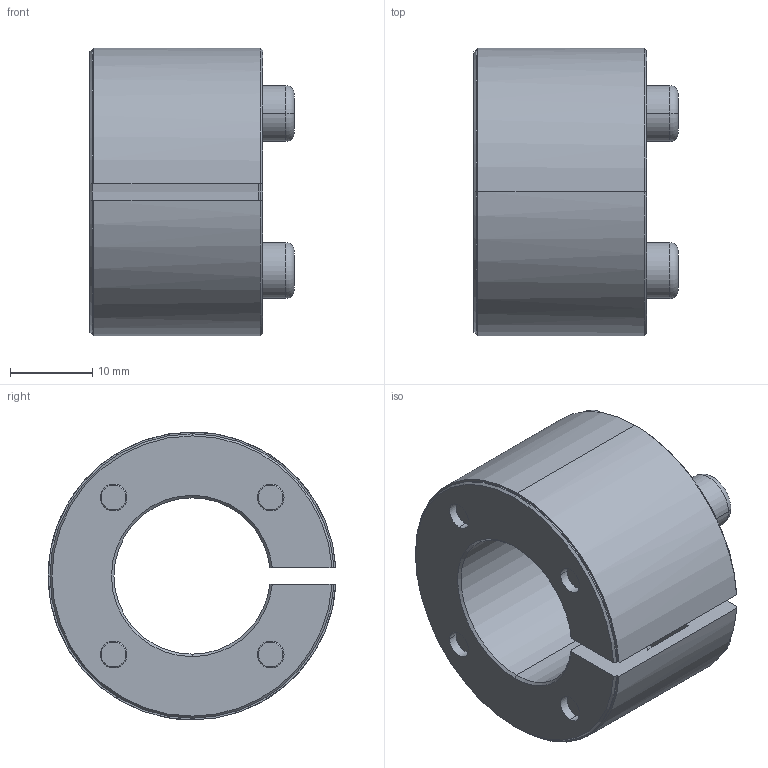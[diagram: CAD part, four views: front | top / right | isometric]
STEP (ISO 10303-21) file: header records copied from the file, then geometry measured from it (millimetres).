
FILE_DESCRIPTION (( 'STEP AP214' ), '1' );
FILE_NAME ('SAPL-E-19-35.STEP', '2024-07-12T02:10:32', ( '决扁浅何厘' ), ( '' ), 'SwSTEP 2.0', 'SolidWorks 2024', '' );
FILE_SCHEMA (( 'AUTOMOTIVE_DESIGN' ));
Length unit declared in the file: millimetre
Products named in the file (1): SAPL-E-19-35
Bounding box: 24.81 x 34.97 x 35 mm (x, y, z)
Volume: 11536.4 mm3; surface area: 8595.5 mm2
Topology: 1 solids, 1 shells, 139 faces, 333 edges, 212 vertices
Faces by surface type: cylinder 48, plane 48, cone 35, torus 8
Entity records: 4180 total; most frequent: CARTESIAN_POINT 811, DIRECTION 736, ORIENTED_EDGE 666, EDGE_CURVE 333, AXIS2_PLACEMENT_3D 290, VERTEX_POINT 212, EDGE_LOOP 169, LINE 156
